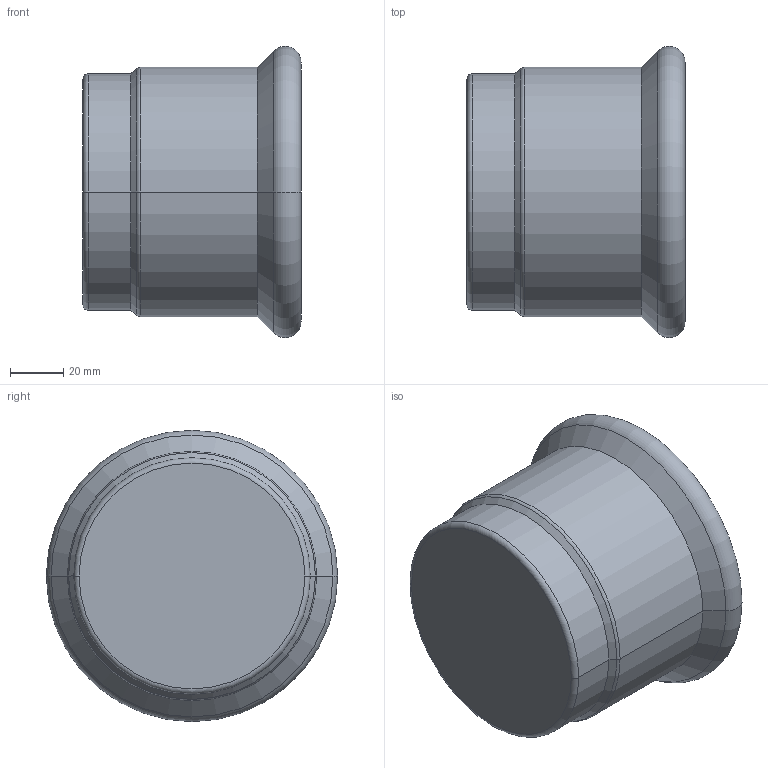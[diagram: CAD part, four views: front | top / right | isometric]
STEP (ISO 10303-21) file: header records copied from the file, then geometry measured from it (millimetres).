
FILE_DESCRIPTION(('CoCreate Modeling STEP Export'),'2;1');
FILE_NAME('C1429 88.9.stp','2014-11-12T16:12:13',(''),(''),'CoCreate Modeling STEP processor for AP214 (Solid Model)','CoCreate Modeling 17.00A 17-Jun-2010 (C) Parametric Technology GmbH','');
FILE_SCHEMA(('AUTOMOTIVE_DESIGN { 1 0 10303 214 1 1 1 1 }'));
Length unit declared in the file: millimetre
Products named in the file (2): C1429_89
Assembly tree (1 placements, depth 2):
  C1429_89
    C1429_89
Bounding box: 82 x 109.48 x 109.48 mm (x, y, z)
Volume: 87821.6 mm3; surface area: 62419.9 mm2
Topology: 1 solids, 1 shells, 27 faces, 53 edges, 31 vertices
Faces by surface type: cylinder 10, torus 8, plane 5, cone 4
Entity records: 612 total; most frequent: ORIENTED_EDGE 106, DIRECTION 96, CARTESIAN_POINT 86, EDGE_CURVE 53, AXIS2_PLACEMENT_3D 41, VERTEX_POINT 31, EDGE_LOOP 30, FACE_OUTER_BOUND 27
